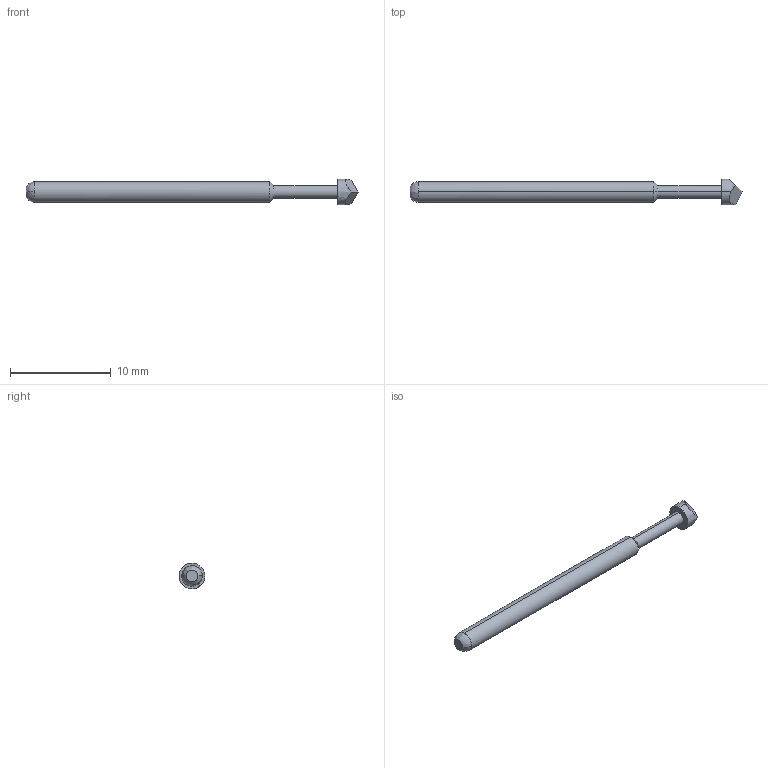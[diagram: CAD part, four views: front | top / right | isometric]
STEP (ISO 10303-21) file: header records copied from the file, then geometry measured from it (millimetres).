
FILE_DESCRIPTION (( 'STEP AP214' ), '1' );
FILE_NAME ('PA5T.STEP', '2024-09-04T14:04:33', ( '' ), ( '' ), 'SwSTEP 2.0', 'SolidWorks 2024', '' );
FILE_SCHEMA (( 'AUTOMOTIVE_DESIGN' ));
Length unit declared in the file: inch
Products named in the file (1): PA5T
Bounding box: 33.02 x 2.54 x 2.54 mm (x, y, z)
Volume: 93.7 mm3; surface area: 202.8 mm2
Topology: 1 solids, 1 shells, 15 faces, 32 edges, 20 vertices
Faces by surface type: bspline 15
Entity records: 568 total; most frequent: CARTESIAN_POINT 346, ORIENTED_EDGE 64, EDGE_CURVE 32, B_SPLINE_CURVE_WITH_KNOTS 20, VERTEX_POINT 20, EDGE_LOOP 16, ADVANCED_FACE 15, FACE_OUTER_BOUND 15
